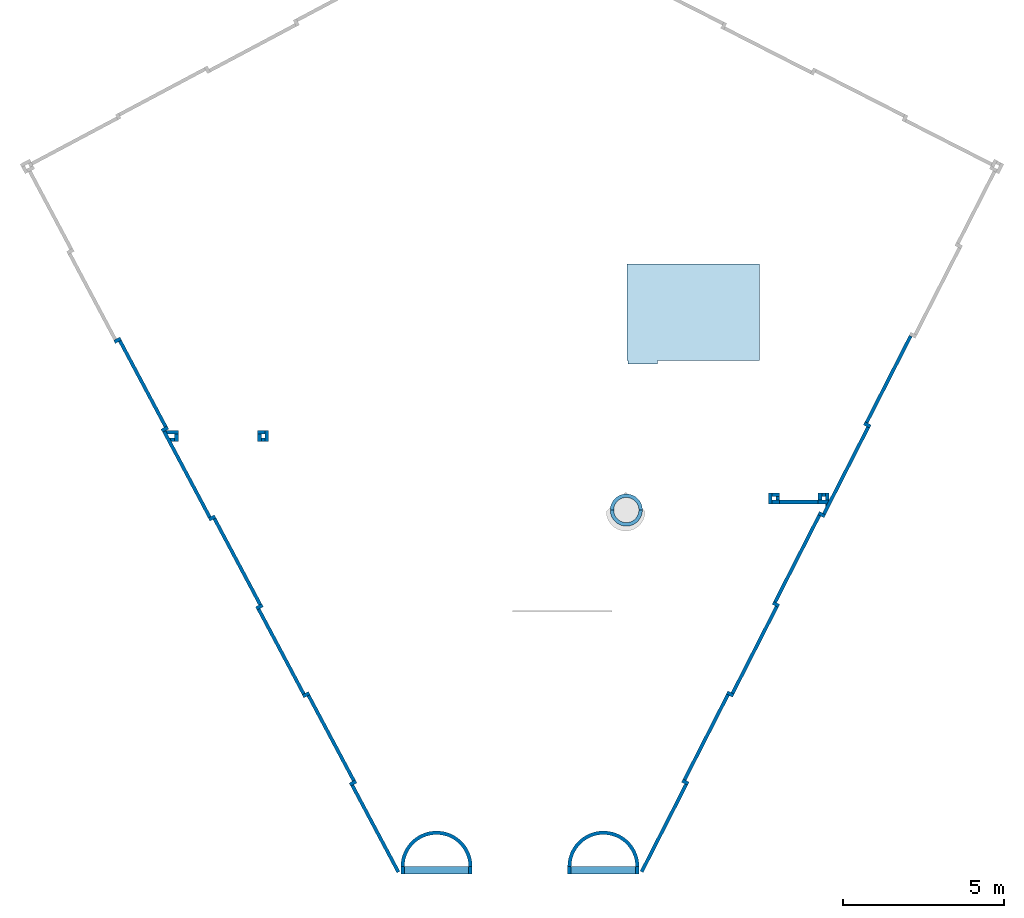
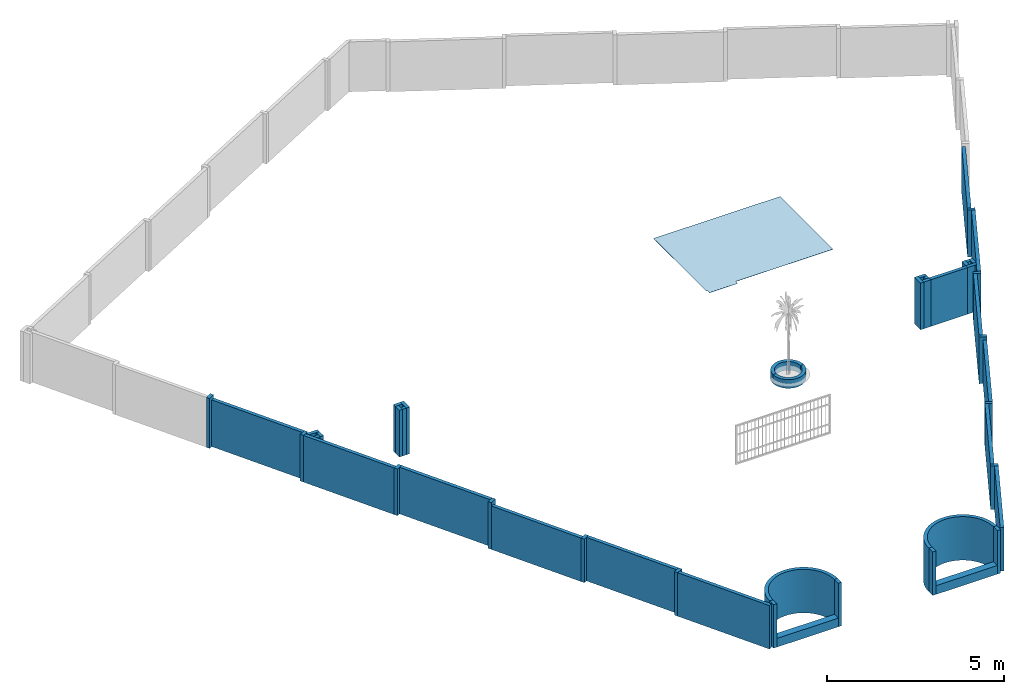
# One storey, part 1 of 4: 49 walls, 1 slab.
"""IFC2X3 building model written with IfcOpenShell, lengths in millimetres."""

import ifcopenshell
import ifcopenshell.guid

model = None  # the IFC model being written
_history = None  # IfcOwnerHistory: only IFC2X3 demands one
_inside = {}  # id of a spatial element -> (the spatial element, [elements in it])
_under = {}  # id of a project, library or spatial element -> (it, [spatial elements below it])
_declared = {}  # id of a project -> (the project, [libraries it declares])
_typed = {}  # id of a type object -> (the type object, [elements of that type])
_made_of = {}  # id of a material, layer set ... -> (it, [elements and type objects made of it])


def new_model(schema):
    """Start an empty IFC model of exactly this schema.

    Asked for "IFC4X3", IfcOpenShell would pick the latest addendum, in which some entities
    have other attributes; the version numbers below select the first issue.
    IFC2X3 requires an IfcOwnerHistory on every rooted entity: one is made here for all.
    """
    global model, _history
    if schema == "IFC4X3":
        model = ifcopenshell.file(schema_version=(4, 3, 0, 0))
    else:
        model = ifcopenshell.file(schema=schema)
    _inside.clear()
    _under.clear()
    _declared.clear()
    _typed.clear()
    _made_of.clear()
    _history = None
    if model.schema == "IFC2X3":
        org = make("IfcOrganization", Name="unknown")
        user = make(
            "IfcPersonAndOrganization",
            ThePerson=make("IfcPerson", FamilyName="unknown"),
            TheOrganization=org,
        )
        app = make(
            "IfcApplication",
            ApplicationDeveloper=org,
            Version="unknown",
            ApplicationFullName="unknown",
            ApplicationIdentifier="unknown",
        )
        _history = make(
            "IfcOwnerHistory",
            OwningUser=user,
            OwningApplication=app,
            ChangeAction="ADDED",
            CreationDate=0,
        )
    return model


def make(cls, **values):
    """One entity of the class cls with the attributes given. An attribute that is None is left unset."""
    return model.create_entity(
        cls, **{name: value for name, value in values.items() if value is not None}
    )


def entity(cls, *values):
    """Any entity or typed value of the class cls, its attributes in the order of the schema. None: left unset."""
    e = model.create_entity(cls)
    for i, value in enumerate(values):
        if value is not None:
            e[i] = value
    return e


def rooted(cls, **values):
    """An entity with a GlobalId (a new one), such as an element, a storey or a relation."""
    return make(cls, GlobalId=ifcopenshell.guid.new(), OwnerHistory=_history, **values)


def si_unit(unit_type, name, prefix=None):
    """IfcSIUnit, for example si_unit("LENGTHUNIT", "METRE", prefix="MILLI")."""
    return make("IfcSIUnit", UnitType=unit_type, Prefix=prefix, Name=name)


def converted_unit(unit_type, name, factor, base, dimensions=None, offset=None):
    """IfcConversionBasedUnit, such as the inch: factor (a typed value) times the base unit."""
    return make(
        "IfcConversionBasedUnit"
        if offset is None
        else "IfcConversionBasedUnitWithOffset",
        ConversionOffset=offset,
        Dimensions=None
        if dimensions is None
        else entity("IfcDimensionalExponents", *dimensions),
        UnitType=unit_type,
        Name=name,
        ConversionFactor=make(
            "IfcMeasureWithUnit", ValueComponent=factor, UnitComponent=base
        ),
    )


def derived_unit(unit_type, elements):
    """IfcDerivedUnit: a product of units, each with its exponent."""
    return make(
        "IfcDerivedUnit",
        Elements=[
            make("IfcDerivedUnitElement", Unit=unit, Exponent=power)
            for unit, power in elements
        ],
        UnitType=unit_type,
    )


def assignment(units):
    """IfcUnitAssignment: the units of a project."""
    return None if units is None else make("IfcUnitAssignment", Units=units)


def point(xyz):
    """IfcCartesianPoint."""
    return None if xyz is None else make("IfcCartesianPoint", Coordinates=xyz)


def direction(xyz):
    """IfcDirection."""
    return None if xyz is None else make("IfcDirection", DirectionRatios=xyz)


def frame(location, z_axis=None, x_axis=None):
    """IfcAxis2Placement3D, a coordinate frame: its origin and axes. An axis left out is left unset."""
    return make(
        "IfcAxis2Placement3D",
        Location=point(location),
        Axis=direction(z_axis),
        RefDirection=direction(x_axis),
    )


def frame_2d(location, x_axis=None):
    """IfcAxis2Placement2D, a coordinate frame in the plane: its origin and x axis."""
    return make(
        "IfcAxis2Placement2D", Location=point(location), RefDirection=direction(x_axis)
    )


def origin():
    """The frame at (0, 0, 0) with its axes left unset."""
    return frame((0.0, 0.0, 0.0))


def place(relative_to, where):
    """IfcLocalPlacement: puts the frame where relative to a parent placement (None: the world)."""
    return make(
        "IfcLocalPlacement", PlacementRelTo=relative_to, RelativePlacement=where
    )


def context(
    kind, dimensions, precision=None, world=None, true_north=None, identifier=None
):
    """IfcGeometricRepresentationContext, for example the 3D "Model" context."""
    return make(
        "IfcGeometricRepresentationContext",
        ContextIdentifier=identifier,
        ContextType=kind,
        CoordinateSpaceDimension=dimensions,
        Precision=precision,
        WorldCoordinateSystem=world,
        TrueNorth=true_north,
    )


def subcontext(parent, identifier, kind, view, scale=None):
    """IfcGeometricRepresentationSubContext, for example "Body" below "Model"."""
    return make(
        "IfcGeometricRepresentationSubContext",
        ContextIdentifier=identifier,
        ContextType=kind,
        ParentContext=parent,
        TargetScale=scale,
        TargetView=view,
    )


def project(units=None, contexts=None):
    """IfcProject with its units and contexts."""
    return rooted(
        "IfcProject",
        Name="project",
        RepresentationContexts=contexts,
        UnitsInContext=assignment(units),
    )


def spatial(cls, under=None, at=None, **own):
    """A site, building, storey or space (cls), placed at a placement, below another one or the project."""
    s = rooted(cls, ObjectPlacement=at, **own)
    if under is not None:
        _under.setdefault(under.id(), (under, []))[1].append(s)
    return s


def polyline(points):
    """IfcPolyline through the points."""
    return make("IfcPolyline", Points=[point(p) for p in points])


def circle_curve(where, radius):
    """IfcCircle in the frame where."""
    return make("IfcCircle", Position=where, Radius=radius)


def parameter(value):
    """IfcParameterValue: where a trimmed curve begins or ends, as a parameter of its basis curve."""
    return model.create_entity("IfcParameterValue", value)


def trimmed(basis, trim1, trim2, sense, master):
    """IfcTrimmedCurve: the piece of a basis curve between two trims."""
    return make(
        "IfcTrimmedCurve",
        BasisCurve=basis,
        Trim1=trim1,
        Trim2=trim2,
        SenseAgreement=sense,
        MasterRepresentation=master,
    )


def segment(curve, same_sense, transition):
    """IfcCompositeCurveSegment."""
    return make(
        "IfcCompositeCurveSegment",
        Transition=transition,
        SameSense=same_sense,
        ParentCurve=curve,
    )


def composite_curve(segments, self_intersect=None):
    """IfcCompositeCurve: segments joined end to end."""
    return make("IfcCompositeCurve", Segments=segments, SelfIntersect=self_intersect)


def profile(cls, at=None, kind="AREA", **sizes):
    """A parametric profile (cls). Its sizes go by their IFC names, for example OverallWidth=200.0."""
    return make(cls, ProfileType=kind, Position=at, **sizes)


def rectangle(**sizes):
    """IfcRectangleProfileDef."""
    return profile("IfcRectangleProfileDef", **sizes)


def outline(outer, holes=None, kind="AREA"):
    """IfcArbitraryClosedProfileDef: a profile drawn as a closed curve; with holes, ...WithVoids."""
    if holes is None:
        return make("IfcArbitraryClosedProfileDef", ProfileType=kind, OuterCurve=outer)
    return make(
        "IfcArbitraryProfileDefWithVoids",
        ProfileType=kind,
        OuterCurve=outer,
        InnerCurves=holes,
    )


def extrude(swept, where, along, depth):
    """IfcExtrudedAreaSolid: the profile swept, set in the frame where, extruded along a direction by depth."""
    return make(
        "IfcExtrudedAreaSolid",
        SweptArea=swept,
        Position=where,
        ExtrudedDirection=direction(along),
        Depth=depth,
    )


def shape(context_of_items, identifier, shape_type, items):
    """IfcShapeRepresentation: the items that make up one representation, for example the "Body"."""
    return make(
        "IfcShapeRepresentation",
        ContextOfItems=context_of_items,
        RepresentationIdentifier=identifier,
        RepresentationType=shape_type,
        Items=items,
    )


def material(Name=None, Category=None):
    """IfcMaterial."""
    return make("IfcMaterial", Name=Name, Category=Category)


def layer(
    of_material, thickness, ventilated=None, Name=None, Category=None, Priority=None
):
    """IfcMaterialLayer: one layer of a wall or slab, of a material (None: an air gap)."""
    return make(
        "IfcMaterialLayer",
        Material=of_material,
        LayerThickness=thickness,
        IsVentilated=ventilated,
        Name=Name,
        Category=Category,
        Priority=Priority,
    )


def layer_set(layers, Name=None):
    """IfcMaterialLayerSet."""
    return make("IfcMaterialLayerSet", MaterialLayers=layers, LayerSetName=Name)


def layer_usage(for_layer_set, set_direction, sense, offset, extent=None):
    """IfcMaterialLayerSetUsage: how a layer set lies in its element."""
    return make(
        "IfcMaterialLayerSetUsage",
        ForLayerSet=for_layer_set,
        LayerSetDirection=set_direction,
        DirectionSense=sense,
        OffsetFromReferenceLine=offset,
        ReferenceExtent=extent,
    )


def made_of(thing, what):
    """Note that an element or type object is made of a material, layer set ...; save() writes the relation."""
    if what is not None:
        _made_of.setdefault(what.id(), (what, []))[1].append(thing)
    return thing


def type_object(cls, material=None, **own):
    """A type object (cls), such as IfcWallType, which elements share."""
    return made_of(rooted(cls, **own), material)


def element(
    cls,
    number,
    at=None,
    inside=None,
    cuts=None,
    type_object=None,
    material=None,
    context=None,
    identifier="Body",
    shape_type=None,
    held_by="IfcProductDefinitionShape",
    body=None,
    shapes=None,
    **own,
):
    """One element of the class cls, such as IfcWall. Its Tag is "e" and its number.

    at: its placement. inside: the storey or other place that contains it. cuts: it is an
    opening in that element (IfcRelVoidsElement). A single representation is given by context,
    identifier, shape_type and body (its items); several are given by shapes. held_by: the class
    of the entity that holds the representations. save() writes the other relations.
    """
    e = rooted(cls, Tag="e%d" % number, ObjectPlacement=at, **own)
    if body is not None:
        shapes = [shape(context, identifier, shape_type, body)]
    if shapes is not None:
        e.Representation = make(held_by, Representations=shapes)
    if inside is not None:
        _inside.setdefault(inside.id(), (inside, []))[1].append(e)
    if cuts is not None:
        rooted(
            "IfcRelVoidsElement", RelatingBuildingElement=cuts, RelatedOpeningElement=e
        )
    if type_object is not None:
        _typed.setdefault(type_object.id(), (type_object, []))[1].append(e)
    return made_of(e, material)


def aggregate(whole, parts):
    """IfcRelAggregates: a whole, such as a stair, and the parts it consists of."""
    return rooted("IfcRelAggregates", RelatingObject=whole, RelatedObjects=parts)


def save(model, path):
    """Write the relations noted so far, then the file.

    IfcRelAggregates (storeys below a building ...), IfcRelContainedInSpatialStructure (elements
    in a storey), IfcRelDefinesByType, IfcRelAssociatesMaterial and IfcRelDeclares: one each for
    every whole, place, type object, material and project.
    """
    for whole, parts in _under.values():
        aggregate(whole, parts)
    for where, things in _inside.values():
        rooted(
            "IfcRelContainedInSpatialStructure",
            RelatedElements=things,
            RelatingStructure=where,
        )
    for kind, things in _typed.values():
        rooted("IfcRelDefinesByType", RelatedObjects=things, RelatingType=kind)
    for what, things in _made_of.values():
        rooted("IfcRelAssociatesMaterial", RelatedObjects=things, RelatingMaterial=what)
    for by, libraries in _declared.values():
        rooted("IfcRelDeclares", RelatingContext=by, RelatedDefinitions=libraries)
    model.write(path)


model = new_model("IFC2X3")

# Units and contexts
model_context = context("Model", 3, precision=0.01, world=origin(), true_north=direction((6.12303176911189e-17, 1.0)))
body_context = subcontext(model_context, "Body", "Model", "MODEL_VIEW")
ifc_project = project(units=[si_unit("LENGTHUNIT", "METRE", prefix="MILLI"), si_unit("AREAUNIT", "SQUARE_METRE"), si_unit("VOLUMEUNIT", "CUBIC_METRE"), converted_unit("PLANEANGLEUNIT", "DEGREE", entity("IfcRatioMeasure", 0.0174532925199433), si_unit("PLANEANGLEUNIT", "RADIAN"), dimensions=[0, 0, 0, 0, 0, 0, 0]), si_unit("MASSUNIT", "GRAM", prefix="KILO"), derived_unit("MASSDENSITYUNIT", [(si_unit("MASSUNIT", "GRAM", prefix="KILO"), 1), (si_unit("LENGTHUNIT", "METRE"), -3)]), si_unit("TIMEUNIT", "SECOND"), si_unit("FREQUENCYUNIT", "HERTZ"), si_unit("THERMODYNAMICTEMPERATUREUNIT", "DEGREE_CELSIUS"), derived_unit("THERMALTRANSMITTANCEUNIT", [(si_unit("MASSUNIT", "GRAM", prefix="KILO"), 1), (si_unit("THERMODYNAMICTEMPERATUREUNIT", "KELVIN"), -1), (si_unit("TIMEUNIT", "SECOND"), -3)]), derived_unit("VOLUMETRICFLOWRATEUNIT", [(si_unit("LENGTHUNIT", "METRE"), 3), (si_unit("TIMEUNIT", "SECOND"), -1)]), si_unit("ELECTRICCURRENTUNIT", "AMPERE"), si_unit("ELECTRICVOLTAGEUNIT", "VOLT"), si_unit("POWERUNIT", "WATT"), si_unit("FORCEUNIT", "NEWTON", prefix="KILO"), si_unit("ILLUMINANCEUNIT", "LUX"), si_unit("LUMINOUSFLUXUNIT", "LUMEN"), si_unit("LUMINOUSINTENSITYUNIT", "CANDELA"), derived_unit("USERDEFINED", [(si_unit("MASSUNIT", "GRAM", prefix="KILO"), -1), (si_unit("LENGTHUNIT", "METRE"), -2), (si_unit("TIMEUNIT", "SECOND"), 3), (si_unit("LUMINOUSFLUXUNIT", "LUMEN"), 1)]), derived_unit("LINEARVELOCITYUNIT", [(si_unit("LENGTHUNIT", "METRE"), 1), (si_unit("TIMEUNIT", "SECOND"), -1)]), si_unit("PRESSUREUNIT", "PASCAL"), derived_unit("USERDEFINED", [(si_unit("LENGTHUNIT", "METRE"), -2), (si_unit("MASSUNIT", "GRAM", prefix="KILO"), 1), (si_unit("TIMEUNIT", "SECOND"), -2)])], contexts=[model_context])

# Site, building, storey
site_placement = place(None, origin())
site = spatial("IfcSite", under=ifc_project, at=site_placement, Name="Surface", CompositionType="ELEMENT")
building_placement = place(site_placement, origin())
building = spatial("IfcBuilding", under=site, at=building_placement, CompositionType="ELEMENT")
storey_placement = place(building_placement, origin())
storey = spatial("IfcBuildingStorey", under=building, at=storey_placement, Name="N.G.L", CompositionType="ELEMENT", Elevation=0.0)

# Slab
ifc_material_1 = material(Name="Carpet")
ifc_layer_1 = layer(ifc_material_1, 4.0)
ifc_layer_set_1 = layer_set([ifc_layer_1], Name="Floor:Carpet")
ifc_layer_usage_1 = layer_usage(ifc_layer_set_1, "AXIS3", "POSITIVE", 0.0)
slab_placement = place(storey_placement, origin())
element("IfcSlab", 1, at=slab_placement, inside=storey, material=ifc_layer_usage_1, Name="Floor:Carpet", ObjectType="Floor:Carpet", PredefinedType="FLOOR", context=body_context, shape_type="SweptSolid", body=[
    extrude(outline(polyline([(-722.500000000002, -1280.0), (2277.5, -1280.0), (2277.5, 2850.0), (-722.500000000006, 2850.0), (-722.500000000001, -327.499999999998), (-832.500000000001, -327.499999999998), (-832.500000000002, -1242.5), (-722.500000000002, -1242.5), (-722.500000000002, -1280.0)])), frame((333.124829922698, 8268.34008915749, 3.0), z_axis=(0.0, 0.0, -1.0), x_axis=(0.0, 1.0, 0.0)), (0.0, 0.0, 1.0), 4.0),
])

# Walls
ifc_material_2 = material(Name="Brickwork - Facebrick (Plettenberg Autumn)")
ifc_layer_2 = layer(ifc_material_2, 110.0)
ifc_layer_set_2 = layer_set([ifc_layer_2], Name="Basic Wall:BrickWall - 110mm (Ext.F&Int.F)")
ifc_layer_usage_2 = layer_usage(ifc_layer_set_2, "AXIS2", "POSITIVE", -55.0)
wall_type_1 = type_object("IfcWallType", Name="Basic Wall:BrickWall - 110mm (Ext.F&Int.F)", PredefinedType="STANDARD", material=ifc_layer_set_2)
wall_1_placement = place(storey_placement, frame((-487.05235674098, -8356.39845620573, -170.0), z_axis=(0.0, 0.0, 1.0), x_axis=(0.453990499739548, 0.891006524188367, 0.0)))
element("IfcWallStandardCase", 2, at=wall_1_placement, inside=storey, type_object=wall_type_1, material=ifc_layer_usage_2, Name="Basic Wall:BrickWall - 110mm (Ext.F&Int.F)", ObjectType="Basic Wall:BrickWall - 110mm (Ext.F&Int.F)", context=body_context, shape_type="SweptSolid", body=[
    extrude(rectangle(XDim=3045.0, YDim=110.0, at=frame_2d((1522.5, 1.31450406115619e-13), x_axis=(-1.0, 0.0))), origin(), (0.0, 0.0, 1.0), 1500.0),
])
ifc_layer_usage_3 = layer_usage(ifc_layer_set_2, "AXIS2", "POSITIVE", -55.0)
wall_2_placement = place(storey_placement, frame((-7921.87517007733, -8419.15991084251, -170.0), z_axis=(0.0, 0.0, 1.0), x_axis=(0.0, 1.0, 0.0)))
element("IfcWallStandardCase", 3, at=wall_2_placement, inside=storey, type_object=wall_type_1, material=ifc_layer_usage_3, Name="Basic Wall:BrickWall - 110mm (Ext.F&Int.F)", ObjectType="Basic Wall:BrickWall - 110mm (Ext.F&Int.F)", context=body_context, shape_type="SweptSolid", body=[
    extrude(rectangle(XDim=220.000000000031, YDim=110.000000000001, at=frame_2d((110.000000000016, 0.0), x_axis=(-1.0, 0.0))), origin(), (0.0, 0.0, 1.0), 1500.0),
])
ifc_layer_usage_4 = layer_usage(ifc_layer_set_2, "AXIS2", "NEGATIVE", 55.0)
wall_3_placement = place(storey_placement, frame((-7921.87517007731, -8199.15991084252, -170.0)))
element("IfcWallStandardCase", 4, at=wall_3_placement, inside=storey, type_object=wall_type_1, material=ifc_layer_usage_4, Name="Basic Wall:BrickWall - 110mm (Ext.F&Int.F)", ObjectType="Basic Wall:BrickWall - 110mm (Ext.F&Int.F)", context=body_context, shape_type="SweptSolid", body=[
    extrude(outline(composite_curve([segment(trimmed(circle_curve(frame_2d((1055.0, 0.0), x_axis=(1.0, 0.0)), 1110.00000000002), [parameter(359.999999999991)], [parameter(179.999999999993)], True, "PARAMETER"), True, "CONTINUOUS"), segment(polyline([(-55.0, 0.0), (55.0, 0.0)]), True, "CONTINUOUS"), segment(trimmed(circle_curve(frame_2d((1055.0, 0.0), x_axis=(1.0, 0.0)), 1000.00000000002), [parameter(359.999999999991)], [parameter(179.999999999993)], True, "PARAMETER"), False, "CONTINUOUS"), segment(polyline([(2055.0, 0.0), (2165.0, 0.0)]), True, "CONTINUOUS")], self_intersect=False)), origin(), (0.0, 0.0, 1.0), 1500.0),
])
ifc_layer_usage_5 = layer_usage(ifc_layer_set_2, "AXIS2", "POSITIVE", -55.0)
wall_4_placement = place(storey_placement, frame((-5811.87517007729, -8199.15991084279, -170.0), z_axis=(0.0, 0.0, 1.0), x_axis=(0.0, -1.0, 0.0)))
element("IfcWallStandardCase", 5, at=wall_4_placement, inside=storey, type_object=wall_type_1, material=ifc_layer_usage_5, Name="Basic Wall:BrickWall - 110mm (Ext.F&Int.F)", ObjectType="Basic Wall:BrickWall - 110mm (Ext.F&Int.F)", context=body_context, shape_type="SweptSolid", body=[
    extrude(rectangle(XDim=219.999999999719, YDim=110.000000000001, at=frame_2d((109.99999999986, 0.0), x_axis=(-1.0, 0.0))), origin(), (0.0, 0.0, 1.0), 1500.0),
])
ifc_layer_usage_6 = layer_usage(ifc_layer_set_2, "AXIS2", "POSITIVE", -55.0)
wall_5_placement = place(storey_placement, frame((-2732.30297205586, -8419.15991084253, -170.0), z_axis=(0.0, 0.0, 1.0), x_axis=(0.0, 1.0, 0.0)))
element("IfcWallStandardCase", 6, at=wall_5_placement, inside=storey, type_object=wall_type_1, material=ifc_layer_usage_6, Name="Basic Wall:BrickWall - 110mm (Ext.F&Int.F)", ObjectType="Basic Wall:BrickWall - 110mm (Ext.F&Int.F)", context=body_context, shape_type="SweptSolid", body=[
    extrude(rectangle(XDim=220.000000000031, YDim=110.0, at=frame_2d((110.000000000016, 0.0), x_axis=(-1.0, 0.0))), origin(), (0.0, 0.0, 1.0), 1500.0),
])
ifc_layer_usage_7 = layer_usage(ifc_layer_set_2, "AXIS2", "NEGATIVE", 55.0)
wall_6_placement = place(storey_placement, frame((-2732.30297205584, -8199.15991084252, -170.0)))
element("IfcWallStandardCase", 7, at=wall_6_placement, inside=storey, type_object=wall_type_1, material=ifc_layer_usage_7, Name="Basic Wall:BrickWall - 110mm (Ext.F&Int.F)", ObjectType="Basic Wall:BrickWall - 110mm (Ext.F&Int.F)", context=body_context, shape_type="SweptSolid", body=[
    extrude(outline(composite_curve([segment(trimmed(circle_curve(frame_2d((1055.0, 0.0), x_axis=(1.0, 0.0)), 1110.00000000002), [parameter(359.999999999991)], [parameter(179.999999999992)], True, "PARAMETER"), True, "CONTINUOUS"), segment(polyline([(-55.0, 0.0), (55.0, 0.0)]), True, "CONTINUOUS"), segment(trimmed(circle_curve(frame_2d((1055.0, 0.0), x_axis=(1.0, 0.0)), 1000.00000000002), [parameter(359.999999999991)], [parameter(179.999999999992)], True, "PARAMETER"), False, "CONTINUOUS"), segment(polyline([(2055.0, 0.0), (2165.0, 0.0)]), True, "CONTINUOUS")], self_intersect=False)), origin(), (0.0, 0.0, 1.0), 1500.0),
])
ifc_layer_usage_8 = layer_usage(ifc_layer_set_2, "AXIS2", "POSITIVE", -55.0)
wall_7_placement = place(storey_placement, frame((-622.302972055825, -8199.1599108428, -170.0), z_axis=(0.0, 0.0, 1.0), x_axis=(0.0, -1.0, 0.0)))
element("IfcWallStandardCase", 8, at=wall_7_placement, inside=storey, type_object=wall_type_1, material=ifc_layer_usage_8, Name="Basic Wall:BrickWall - 110mm (Ext.F&Int.F)", ObjectType="Basic Wall:BrickWall - 110mm (Ext.F&Int.F)", context=body_context, shape_type="SweptSolid", body=[
    extrude(rectangle(XDim=219.999999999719, YDim=110.0, at=frame_2d((109.99999999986, 3.19744231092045e-14), x_axis=(-1.0, 0.0))), origin(), (0.0, 0.0, 1.0), 1500.0),
])
ifc_layer_usage_9 = layer_usage(ifc_layer_set_2, "AXIS2", "NEGATIVE", 55.0)
wall_8_placement = place(storey_placement, frame((-8051.22352044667, -8369.05791608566, -170.0), z_axis=(0.0, 0.0, 1.0), x_axis=(-0.469471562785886, 0.88294759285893, 0.0)))
element("IfcWallStandardCase", 9, at=wall_8_placement, inside=storey, type_object=wall_type_1, material=ifc_layer_usage_9, Name="Basic Wall:BrickWall - 110mm (Ext.F&Int.F)", ObjectType="Basic Wall:BrickWall - 110mm (Ext.F&Int.F)", context=body_context, shape_type="SweptSolid", body=[
    extrude(rectangle(XDim=3055.0, YDim=109.999999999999, at=frame_2d((1527.5, 4.2277292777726e-13), x_axis=(-1.0, 0.0))), origin(), (0.0, 0.0, 1.0), 1500.0),
])
ifc_layer_usage_10 = layer_usage(ifc_layer_set_2, "AXIS2", "POSITIVE", -55.0)
wall_9_placement = place(storey_placement, frame((-12472.9132454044, -170.22202455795, -170.0), z_axis=(0.0, 0.0, 1.0), x_axis=(0.882947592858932, 0.469471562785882, 0.0)))
element("IfcWallStandardCase", 10, at=wall_9_placement, inside=storey, type_object=wall_type_1, material=ifc_layer_usage_10, Name="Basic Wall:BrickWall - 110mm (Ext.F&Int.F)", ObjectType="Basic Wall:BrickWall - 110mm (Ext.F&Int.F)", context=body_context, shape_type="SweptSolid", body=[
    extrude(rectangle(XDim=219.999999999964, YDim=110.000000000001, at=frame_2d((109.999999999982, -4.61852778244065e-14), x_axis=(-1.0, 0.0))), origin(), (0.0, 0.0, 1.0), 1610.0),
])
ifc_layer_usage_11 = layer_usage(ifc_layer_set_2, "AXIS2", "POSITIVE", -55.0)
wall_10_placement = place(storey_placement, frame((-12353.047828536, -44.1970990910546, -170.0), z_axis=(0.0, 0.0, 1.0), x_axis=(-0.469471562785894, 0.882947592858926, 0.0)))
element("IfcWallStandardCase", 11, at=wall_10_placement, inside=storey, type_object=wall_type_1, material=ifc_layer_usage_11, Name="Basic Wall:BrickWall - 110mm (Ext.F&Int.F)", ObjectType="Basic Wall:BrickWall - 110mm (Ext.F&Int.F)", context=body_context, shape_type="SweptSolid", body=[
    extrude(rectangle(XDim=3020.0, YDim=110.000000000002, at=frame_2d((1510.0, -6.25277607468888e-13), x_axis=(-1.0, 0.0))), origin(), (0.0, 0.0, 1.0), 1610.0),
])
ifc_layer_usage_12 = layer_usage(ifc_layer_set_2, "AXIS2", "NEGATIVE", 55.0)
wall_11_placement = place(storey_placement, frame((-13748.1107664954, 2696.68768490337, -170.0), z_axis=(0.0, 0.0, 1.0), x_axis=(-0.882947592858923, -0.469471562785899, 0.0)))
element("IfcWallStandardCase", 12, at=wall_11_placement, inside=storey, type_object=wall_type_1, material=ifc_layer_usage_12, Name="Basic Wall:BrickWall - 110mm (Ext.F&Int.F)", ObjectType="Basic Wall:BrickWall - 110mm (Ext.F&Int.F)", context=body_context, shape_type="SweptSolid", body=[
    extrude(rectangle(XDim=219.999999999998, YDim=110.0, at=frame_2d((109.999999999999, 2.8421709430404e-14), x_axis=(-1.0, 0.0))), origin(), (0.0, 0.0, 1.0), 1610.0),
])
ifc_layer_usage_13 = layer_usage(ifc_layer_set_2, "AXIS2", "NEGATIVE", 55.0)
wall_12_placement = place(storey_placement, frame((-13919.6180552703, 2667.78699465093, -170.0), z_axis=(0.0, 0.0, 1.0), x_axis=(-0.469471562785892, 0.882947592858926, 0.0)))
element("IfcWallStandardCase", 13, at=wall_12_placement, inside=storey, type_object=wall_type_1, material=ifc_layer_usage_13, Name="Basic Wall:BrickWall - 110mm (Ext.F&Int.F)", ObjectType="Basic Wall:BrickWall - 110mm (Ext.F&Int.F)", context=body_context, shape_type="SweptSolid", body=[
    extrude(rectangle(XDim=3020.0, YDim=110.000000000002, at=frame_2d((1510.0, 2.23820961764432e-13), x_axis=(-1.0, 0.0))), origin(), (0.0, 0.0, 1.0), 1610.0),
])
ifc_layer_usage_14 = layer_usage(ifc_layer_set_2, "AXIS2", "POSITIVE", -55.0)
wall_13_placement = place(storey_placement, frame((-15411.8052284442, 5357.02990673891, -170.0), z_axis=(0.0, 0.0, 1.0), x_axis=(0.882947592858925, 0.469471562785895, 0.0)))
element("IfcWallStandardCase", 14, at=wall_13_placement, inside=storey, type_object=wall_type_1, material=ifc_layer_usage_14, Name="Basic Wall:BrickWall - 110mm (Ext.F&Int.F)", ObjectType="Basic Wall:BrickWall - 110mm (Ext.F&Int.F)", context=body_context, shape_type="SweptSolid", body=[
    extrude(rectangle(XDim=220.000000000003, YDim=110.0, at=frame_2d((110.000000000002, 4.44089209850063e-13), x_axis=(-1.0, 0.0))), origin(), (0.0, 0.0, 1.0), 1610.0),
])
ifc_layer_usage_15 = layer_usage(ifc_layer_set_2, "AXIS2", "POSITIVE", -55.0)
wall_14_placement = place(storey_placement, frame((-15291.9398115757, 5483.05483220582, -170.0), z_axis=(0.0, 0.0, 1.0), x_axis=(-0.469471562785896, 0.882947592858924, 0.0)))
element("IfcWallStandardCase", 15, at=wall_14_placement, inside=storey, type_object=wall_type_1, material=ifc_layer_usage_15, Name="Basic Wall:BrickWall - 110mm (Ext.F&Int.F)", ObjectType="Basic Wall:BrickWall - 110mm (Ext.F&Int.F)", context=body_context, shape_type="SweptSolid", body=[
    extrude(rectangle(XDim=3020.0, YDim=109.999999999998, at=frame_2d((1510.0, 5.11590769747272e-13), x_axis=(-1.0, 0.0))), origin(), (0.0, 0.0, 1.0), 1610.0),
])
ifc_layer_usage_16 = layer_usage(ifc_layer_set_2, "AXIS2", "NEGATIVE", 55.0)
wall_15_placement = place(storey_placement, frame((-16687.002749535, 8223.93961620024, -170.0), z_axis=(0.0, 0.0, 1.0), x_axis=(-0.882947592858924, -0.469471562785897, 0.0)))
element("IfcWallStandardCase", 16, at=wall_15_placement, inside=storey, type_object=wall_type_1, material=ifc_layer_usage_16, Name="Basic Wall:BrickWall - 110mm (Ext.F&Int.F)", ObjectType="Basic Wall:BrickWall - 110mm (Ext.F&Int.F)", context=body_context, shape_type="SweptSolid", body=[
    extrude(rectangle(XDim=220.000000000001, YDim=110.0, at=frame_2d((110.0, 2.30926389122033e-13), x_axis=(-1.0, 0.0))), origin(), (0.0, 0.0, 1.0), 1720.0),
])
ifc_layer_usage_17 = layer_usage(ifc_layer_set_2, "AXIS2", "POSITIVE", -55.0)
wall_16_placement = place(storey_placement, frame((2341.30845663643, -2805.42781051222, -170.0), z_axis=(0.0, 0.0, 1.0), x_axis=(0.453990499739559, 0.891006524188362, 0.0)))
element("IfcWallStandardCase", 17, at=wall_16_placement, inside=storey, type_object=wall_type_1, material=ifc_layer_usage_17, Name="Basic Wall:BrickWall - 110mm (Ext.F&Int.F)", ObjectType="Basic Wall:BrickWall - 110mm (Ext.F&Int.F)", context=body_context, shape_type="SweptSolid", body=[
    extrude(rectangle(XDim=3020.0, YDim=110.0, at=frame_2d((1510.0, 3.5527136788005e-14), x_axis=(-1.0, 0.0))), origin(), (0.0, 0.0, 1.0), 1500.0),
])
ifc_layer_usage_18 = layer_usage(ifc_layer_set_2, "AXIS2", "NEGATIVE", 55.0)
wall_17_placement = place(storey_placement, frame((3786.33460216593, -90.55222611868, -170.0), z_axis=(0.0, 0.0, 1.0), x_axis=(-0.891006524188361, 0.453990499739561, 0.0)))
element("IfcWallStandardCase", 18, at=wall_17_placement, inside=storey, type_object=wall_type_1, material=ifc_layer_usage_18, Name="Basic Wall:BrickWall - 110mm (Ext.F&Int.F)", ObjectType="Basic Wall:BrickWall - 110mm (Ext.F&Int.F)", context=body_context, shape_type="SweptSolid", body=[
    extrude(rectangle(XDim=220.0, YDim=110.0, at=frame_2d((110.0, -2.1316282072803e-14), x_axis=(-1.0, 0.0))), origin(), (0.0, 0.0, 1.0), 1610.0),
])
ifc_layer_usage_19 = layer_usage(ifc_layer_set_2, "AXIS2", "NEGATIVE", 55.0)
wall_18_placement = place(storey_placement, frame((3664.28800316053, 33.3615651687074, -170.0), z_axis=(0.0, 0.0, 1.0), x_axis=(0.453990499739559, 0.891006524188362, 0.0)))
element("IfcWallStandardCase", 19, at=wall_18_placement, inside=storey, type_object=wall_type_1, material=ifc_layer_usage_19, Name="Basic Wall:BrickWall - 110mm (Ext.F&Int.F)", ObjectType="Basic Wall:BrickWall - 110mm (Ext.F&Int.F)", context=body_context, shape_type="SweptSolid", body=[
    extrude(rectangle(XDim=3020.0, YDim=110.000000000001, at=frame_2d((1510.0, 1.98951966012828e-13), x_axis=(-1.0, 0.0))), origin(), (0.0, 0.0, 1.0), 1610.0),
])
ifc_layer_usage_20 = layer_usage(ifc_layer_set_2, "AXIS2", "POSITIVE", -55.0)
wall_19_placement = place(storey_placement, frame((5011.30343102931, 2798.17610453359, -170.0), z_axis=(0.0, 0.0, 1.0), x_axis=(0.891006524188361, -0.45399049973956, 0.0)))
element("IfcWallStandardCase", 20, at=wall_19_placement, inside=storey, type_object=wall_type_1, material=ifc_layer_usage_20, Name="Basic Wall:BrickWall - 110mm (Ext.F&Int.F)", ObjectType="Basic Wall:BrickWall - 110mm (Ext.F&Int.F)", context=body_context, shape_type="SweptSolid", body=[
    extrude(rectangle(XDim=220.0, YDim=110.0, at=frame_2d((110.0, 3.5527136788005e-15), x_axis=(-1.0, 0.0))), origin(), (0.0, 0.0, 1.0), 1610.0),
])
ifc_layer_usage_21 = layer_usage(ifc_layer_set_2, "AXIS2", "POSITIVE", -55.0)
wall_20_placement = place(storey_placement, frame((5183.28898500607, 2772.27303090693, -170.0), z_axis=(0.0, 0.0, 1.0), x_axis=(0.453990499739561, 0.89100652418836, 0.0)))
element("IfcWallStandardCase", 21, at=wall_20_placement, inside=storey, type_object=wall_type_1, material=ifc_layer_usage_21, Name="Basic Wall:BrickWall - 110mm (Ext.F&Int.F)", ObjectType="Basic Wall:BrickWall - 110mm (Ext.F&Int.F)", context=body_context, shape_type="SweptSolid", body=[
    extrude(rectangle(XDim=3020.0, YDim=110.0, at=frame_2d((1510.0, -1.52766688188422e-13), x_axis=(-1.0, 0.0))), origin(), (0.0, 0.0, 1.0), 1610.0),
])
ifc_layer_usage_22 = layer_usage(ifc_layer_set_2, "AXIS2", "NEGATIVE", 55.0)
wall_21_placement = place(storey_placement, frame((6628.31513053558, 5487.14861530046, -170.0), z_axis=(0.0, 0.0, 1.0), x_axis=(-0.891006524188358, 0.453990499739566, 0.0)))
element("IfcWallStandardCase", 22, at=wall_21_placement, inside=storey, type_object=wall_type_1, material=ifc_layer_usage_22, Name="Basic Wall:BrickWall - 110mm (Ext.F&Int.F)", ObjectType="Basic Wall:BrickWall - 110mm (Ext.F&Int.F)", context=body_context, shape_type="SweptSolid", body=[
    extrude(rectangle(XDim=220.0, YDim=110.000000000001, at=frame_2d((110.0, 0.0), x_axis=(-1.0, 0.0))), origin(), (0.0, 0.0, 1.0), 1610.0),
])
ifc_layer_usage_23 = layer_usage(ifc_layer_set_2, "AXIS2", "NEGATIVE", 55.0)
wall_22_placement = place(storey_placement, frame((6506.26853153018, 5611.06240658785, -170.0), z_axis=(0.0, 0.0, 1.0), x_axis=(0.453990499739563, 0.89100652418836, 0.0)))
element("IfcWallStandardCase", 23, at=wall_22_placement, inside=storey, type_object=wall_type_1, material=ifc_layer_usage_23, Name="Basic Wall:BrickWall - 110mm (Ext.F&Int.F)", ObjectType="Basic Wall:BrickWall - 110mm (Ext.F&Int.F)", context=body_context, shape_type="SweptSolid", body=[
    extrude(rectangle(XDim=3020.0, YDim=110.0, at=frame_2d((1510.0, -1.77635683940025e-14), x_axis=(-1.0, 0.0))), origin(), (0.0, 0.0, 1.0), 1610.0),
])
ifc_layer_usage_24 = layer_usage(ifc_layer_set_2, "AXIS2", "NEGATIVE", 55.0)
wall_23_placement = place(storey_placement, frame((969.323551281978, -5619.24770870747, -170.0), z_axis=(0.0, 0.0, 1.0), x_axis=(-0.891006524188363, 0.453990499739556, 0.0)))
element("IfcWallStandardCase", 24, at=wall_23_placement, inside=storey, type_object=wall_type_1, material=ifc_layer_usage_24, Name="Basic Wall:BrickWall - 110mm (Ext.F&Int.F)", ObjectType="Basic Wall:BrickWall - 110mm (Ext.F&Int.F)", context=body_context, shape_type="SweptSolid", body=[
    extrude(rectangle(XDim=220.0, YDim=110.0, at=frame_2d((110.0, 3.5527136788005e-14), x_axis=(-1.0, 0.0))), origin(), (0.0, 0.0, 1.0), 1500.0),
])
ifc_layer_usage_25 = layer_usage(ifc_layer_set_2, "AXIS2", "NEGATIVE", 55.0)
wall_24_placement = place(storey_placement, frame((847.276952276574, -5495.33391742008, -170.0), z_axis=(0.0, 0.0, 1.0), x_axis=(0.453990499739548, 0.891006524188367, 0.0)))
element("IfcWallStandardCase", 25, at=wall_24_placement, inside=storey, type_object=wall_type_1, material=ifc_layer_usage_25, Name="Basic Wall:BrickWall - 110mm (Ext.F&Int.F)", ObjectType="Basic Wall:BrickWall - 110mm (Ext.F&Int.F)", context=body_context, shape_type="SweptSolid", body=[
    extrude(rectangle(XDim=2965.0, YDim=109.999999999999, at=frame_2d((1482.5, -1.13686837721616e-13), x_axis=(-1.0, 0.0))), origin(), (0.0, 0.0, 1.0), 1500.0),
])
ifc_layer_usage_26 = layer_usage(ifc_layer_set_2, "AXIS2", "POSITIVE", -55.0)
wall_25_placement = place(storey_placement, frame((2365.34433798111, -2879.40264682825, -170.0), z_axis=(0.0, 0.0, 1.0), x_axis=(-0.891006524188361, 0.453990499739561, 0.0)))
element("IfcWallStandardCase", 26, at=wall_25_placement, inside=storey, type_object=wall_type_1, material=ifc_layer_usage_26, Name="Basic Wall:BrickWall - 110mm (Ext.F&Int.F)", ObjectType="Basic Wall:BrickWall - 110mm (Ext.F&Int.F)", context=body_context, shape_type="SweptSolid", body=[
    extrude(rectangle(XDim=220.000000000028, YDim=110.0, at=frame_2d((110.000000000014, -7.105427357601e-14), x_axis=(-1.0, 0.0))), origin(), (0.0, 0.0, 1.0), 1500.0),
])
ifc_layer_usage_27 = layer_usage(ifc_layer_set_2, "AXIS2", "POSITIVE", -55.0)
wall_26_placement = place(storey_placement, frame((-9559.84219831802, -5648.91183824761, -170.0), z_axis=(0.0, 0.0, 1.0), x_axis=(0.88294759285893, 0.469471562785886, 0.0)))
element("IfcWallStandardCase", 27, at=wall_26_placement, inside=storey, type_object=wall_type_1, material=ifc_layer_usage_27, Name="Basic Wall:BrickWall - 110mm (Ext.F&Int.F)", ObjectType="Basic Wall:BrickWall - 110mm (Ext.F&Int.F)", context=body_context, shape_type="SweptSolid", body=[
    extrude(rectangle(XDim=220.000000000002, YDim=109.999999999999, at=frame_2d((110.000000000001, 2.16715534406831e-13), x_axis=(-1.0, 0.0))), origin(), (0.0, 0.0, 1.0), 1500.0),
])
ifc_layer_usage_28 = layer_usage(ifc_layer_set_2, "AXIS2", "POSITIVE", -55.0)
wall_27_placement = place(storey_placement, frame((-9439.97678144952, -5522.8869127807, -170.0), z_axis=(0.0, 0.0, 1.0), x_axis=(-0.46947156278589, 0.882947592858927, 0.0)))
element("IfcWallStandardCase", 28, at=wall_27_placement, inside=storey, type_object=wall_type_1, material=ifc_layer_usage_28, Name="Basic Wall:BrickWall - 110mm (Ext.F&Int.F)", ObjectType="Basic Wall:BrickWall - 110mm (Ext.F&Int.F)", context=body_context, shape_type="SweptSolid", body=[
    extrude(rectangle(XDim=3000.0, YDim=109.999999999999, at=frame_2d((1500.0, -5.25801624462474e-13), x_axis=(-1.0, 0.0))), origin(), (0.0, 0.0, 1.0), 1500.0),
])
ifc_layer_usage_29 = layer_usage(ifc_layer_set_2, "AXIS2", "NEGATIVE", 55.0)
wall_28_placement = place(storey_placement, frame((-10825.6502881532, -2799.66108064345, -170.0), z_axis=(0.0, 0.0, 1.0), x_axis=(-0.88294759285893, -0.469471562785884, 0.0)))
element("IfcWallStandardCase", 29, at=wall_28_placement, inside=storey, type_object=wall_type_1, material=ifc_layer_usage_29, Name="Basic Wall:BrickWall - 110mm (Ext.F&Int.F)", ObjectType="Basic Wall:BrickWall - 110mm (Ext.F&Int.F)", context=body_context, shape_type="SweptSolid", body=[
    extrude(rectangle(XDim=219.999999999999, YDim=110.000000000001, at=frame_2d((109.999999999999, 1.66977542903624e-13), x_axis=(-1.0, 0.0))), origin(), (0.0, 0.0, 1.0), 1500.0),
])
ifc_layer_usage_30 = layer_usage(ifc_layer_set_2, "AXIS2", "NEGATIVE", 55.0)
wall_29_placement = place(storey_placement, frame((-10997.1575769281, -2828.56177089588, -170.0), z_axis=(0.0, 0.0, 1.0), x_axis=(-0.469471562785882, 0.882947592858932, 0.0)))
element("IfcWallStandardCase", 30, at=wall_29_placement, inside=storey, type_object=wall_type_1, material=ifc_layer_usage_30, Name="Basic Wall:BrickWall - 110mm (Ext.F&Int.F)", ObjectType="Basic Wall:BrickWall - 110mm (Ext.F&Int.F)", context=body_context, shape_type="SweptSolid", body=[
    extrude(rectangle(XDim=2985.0, YDim=110.000000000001, at=frame_2d((1492.5, 4.83169060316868e-13), x_axis=(-1.0, 0.0))), origin(), (0.0, 0.0, 1.0), 1500.0),
])
ifc_layer_usage_31 = layer_usage(ifc_layer_set_2, "AXIS2", "NEGATIVE", 55.0)
wall_30_placement = place(storey_placement, frame((-15288.8600572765, 5305.10966103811, -170.0)))
element("IfcWallStandardCase", 31, at=wall_30_placement, inside=storey, type_object=wall_type_1, material=ifc_layer_usage_31, Name="Basic Wall:BrickWall - 110mm (Ext.F&Int.F)", ObjectType="Basic Wall:BrickWall - 110mm (Ext.F&Int.F)", context=body_context, shape_type="SweptSolid", body=[
    extrude(outline(polyline([(390.631101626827, -55.0), (390.631101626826, 55.0), (0.0, 55.0), (58.4880374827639, -55.0), (280.631101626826, -55.0), (390.631101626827, -55.0)])), origin(), (0.0, 0.0, 1.0), 1610.0),
])
ifc_layer_usage_32 = layer_usage(ifc_layer_set_2, "AXIS2", "NEGATIVE", 55.0)
wall_31_placement = place(storey_placement, frame((-14953.2289556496, 5250.10966103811, -170.0), z_axis=(0.0, 0.0, 1.0), x_axis=(0.0, -1.0, 0.0)))
element("IfcWallStandardCase", 32, at=wall_31_placement, inside=storey, type_object=wall_type_1, material=ifc_layer_usage_32, Name="Basic Wall:BrickWall - 110mm (Ext.F&Int.F)", ObjectType="Basic Wall:BrickWall - 110mm (Ext.F&Int.F)", context=body_context, shape_type="SweptSolid", body=[
    extrude(rectangle(XDim=230.0, YDim=110.000000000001, at=frame_2d((115.0, 0.0), x_axis=(-1.0, 0.0))), origin(), (0.0, 0.0, 1.0), 1610.0),
])
ifc_layer_usage_33 = layer_usage(ifc_layer_set_2, "AXIS2", "NEGATIVE", 55.0)
wall_32_placement = place(storey_placement, frame((-15008.2289556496, 5075.10966103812, -170.0), z_axis=(0.0, 0.0, 1.0), x_axis=(-1.0, 0.0, 0.0)))
element("IfcWallStandardCase", 33, at=wall_32_placement, inside=storey, type_object=wall_type_1, material=ifc_layer_usage_33, Name="Basic Wall:BrickWall - 110mm (Ext.F&Int.F)", ObjectType="Basic Wall:BrickWall - 110mm (Ext.F&Int.F)", context=body_context, shape_type="SweptSolid", body=[
    extrude(outline(polyline([(158.337932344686, -55.0), (99.8498948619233, 55.0), (0.0, 55.0), (0.0, -55.0), (158.337932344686, -55.0)])), origin(), (0.0, 0.0, 1.0), 1610.0),
])
ifc_layer_usage_34 = layer_usage(ifc_layer_set_2, "AXIS2", "POSITIVE", -55.0)
wall_33_placement = place(storey_placement, frame((-12141.8751700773, 5020.10966103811, -170.0), z_axis=(0.0, 0.0, 1.0), x_axis=(0.0, 1.0, 0.0)))
element("IfcWallStandardCase", 34, at=wall_33_placement, inside=storey, type_object=wall_type_1, material=ifc_layer_usage_34, Name="Basic Wall:BrickWall - 110mm (Ext.F&Int.F)", ObjectType="Basic Wall:BrickWall - 110mm (Ext.F&Int.F)", context=body_context, shape_type="SweptSolid", body=[
    extrude(rectangle(XDim=339.999999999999, YDim=110.000000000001, at=frame_2d((169.999999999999, 0.0), x_axis=(-1.0, 0.0))), origin(), (0.0, 0.0, 1.0), 1610.0),
])
ifc_layer_usage_35 = layer_usage(ifc_layer_set_2, "AXIS2", "POSITIVE", -55.0)
wall_34_placement = place(storey_placement, frame((-12196.8751700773, 5305.10966103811, -170.0), z_axis=(0.0, 0.0, 1.0), x_axis=(-1.0, 0.0, 0.0)))
element("IfcWallStandardCase", 35, at=wall_34_placement, inside=storey, type_object=wall_type_1, material=ifc_layer_usage_35, Name="Basic Wall:BrickWall - 110mm (Ext.F&Int.F)", ObjectType="Basic Wall:BrickWall - 110mm (Ext.F&Int.F)", context=body_context, shape_type="SweptSolid", body=[
    extrude(rectangle(XDim=230.0, YDim=110.000000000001, at=frame_2d((115.0, -1.74082970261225e-13), x_axis=(-1.0, 0.0))), origin(), (0.0, 0.0, 1.0), 1610.0),
])
ifc_layer_usage_36 = layer_usage(ifc_layer_set_2, "AXIS2", "POSITIVE", -55.0)
wall_35_placement = place(storey_placement, frame((-12371.8751700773, 5250.10966103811, -170.0), z_axis=(0.0, 0.0, 1.0), x_axis=(0.0, -1.0, 0.0)))
element("IfcWallStandardCase", 36, at=wall_35_placement, inside=storey, type_object=wall_type_1, material=ifc_layer_usage_36, Name="Basic Wall:BrickWall - 110mm (Ext.F&Int.F)", ObjectType="Basic Wall:BrickWall - 110mm (Ext.F&Int.F)", context=body_context, shape_type="SweptSolid", body=[
    extrude(rectangle(XDim=229.999999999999, YDim=110.000000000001, at=frame_2d((114.999999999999, 0.0), x_axis=(-1.0, 0.0))), origin(), (0.0, 0.0, 1.0), 1610.0),
])
ifc_layer_usage_37 = layer_usage(ifc_layer_set_2, "AXIS2", "POSITIVE", -55.0)
wall_36_placement = place(storey_placement, frame((-12316.8751700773, 5075.10966103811, -170.0)))
element("IfcWallStandardCase", 37, at=wall_36_placement, inside=storey, type_object=wall_type_1, material=ifc_layer_usage_37, Name="Basic Wall:BrickWall - 110mm (Ext.F&Int.F)", ObjectType="Basic Wall:BrickWall - 110mm (Ext.F&Int.F)", context=body_context, shape_type="SweptSolid", body=[
    extrude(rectangle(XDim=119.999999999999, YDim=110.000000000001, at=frame_2d((59.9999999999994, -3.5171865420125e-13), x_axis=(-1.0, 0.0))), origin(), (0.0, 0.0, 1.0), 1610.0),
])
ifc_layer_usage_38 = layer_usage(ifc_layer_set_2, "AXIS2", "NEGATIVE", 55.0)
wall_37_placement = place(storey_placement, frame((5337.87833803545, 3141.81962875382, -170.0), z_axis=(0.0, 0.0, 1.0), x_axis=(-1.0, 0.0, 0.0)))
element("IfcWallStandardCase", 38, at=wall_37_placement, inside=storey, type_object=wall_type_1, material=ifc_layer_usage_38, Name="Basic Wall:BrickWall - 110mm (Ext.F&Int.F)", ObjectType="Basic Wall:BrickWall - 110mm (Ext.F&Int.F)", context=body_context, shape_type="SweptSolid", body=[
    extrude(outline(polyline([(341.047799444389, -55.0), (341.047799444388, 55.0), (56.0477994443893, 55.0), (0.0, -55.0), (224.319856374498, -55.0), (334.319856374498, -55.0), (341.047799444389, -55.0)])), origin(), (0.0, 0.0, 1.0), 1610.0),
])
ifc_layer_usage_39 = layer_usage(ifc_layer_set_2, "AXIS2", "POSITIVE", -55.0)
wall_38_placement = place(storey_placement, frame((3518.1248299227, 3426.81962875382, -170.0), z_axis=(0.0, 0.0, 1.0), x_axis=(0.0, -1.0, 0.0)))
element("IfcWallStandardCase", 39, at=wall_38_placement, inside=storey, type_object=wall_type_1, material=ifc_layer_usage_39, Name="Basic Wall:BrickWall - 110mm (Ext.F&Int.F)", ObjectType="Basic Wall:BrickWall - 110mm (Ext.F&Int.F)", context=body_context, shape_type="SweptSolid", body=[
    extrude(rectangle(XDim=340.000000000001, YDim=110.0, at=frame_2d((170.0, 0.0), x_axis=(-1.0, 0.0))), origin(), (0.0, 0.0, 1.0), 1610.0),
])
ifc_layer_usage_40 = layer_usage(ifc_layer_set_2, "AXIS2", "POSITIVE", -55.0)
wall_39_placement = place(storey_placement, frame((3573.1248299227, 3141.81962875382, -170.0)))
element("IfcWallStandardCase", 40, at=wall_39_placement, inside=storey, type_object=wall_type_1, material=ifc_layer_usage_40, Name="Basic Wall:BrickWall - 110mm (Ext.F&Int.F)", ObjectType="Basic Wall:BrickWall - 110mm (Ext.F&Int.F)", context=body_context, shape_type="SweptSolid", body=[
    extrude(rectangle(XDim=229.999999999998, YDim=110.0, at=frame_2d((114.999999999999, 9.59232693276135e-14), x_axis=(-1.0, 0.0))), origin(), (0.0, 0.0, 1.0), 1610.0),
])
ifc_layer_usage_41 = layer_usage(ifc_layer_set_2, "AXIS2", "POSITIVE", -55.0)
wall_40_placement = place(storey_placement, frame((3748.12482992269, 3196.81962875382, -170.0), z_axis=(0.0, 0.0, 1.0), x_axis=(0.0, 1.0, 0.0)))
element("IfcWallStandardCase", 41, at=wall_40_placement, inside=storey, type_object=wall_type_1, material=ifc_layer_usage_41, Name="Basic Wall:BrickWall - 110mm (Ext.F&Int.F)", ObjectType="Basic Wall:BrickWall - 110mm (Ext.F&Int.F)", context=body_context, shape_type="SweptSolid", body=[
    extrude(rectangle(XDim=120.000000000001, YDim=110.0, at=frame_2d((60.0000000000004, -1.74082970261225e-13), x_axis=(-1.0, 0.0))), origin(), (0.0, 0.0, 1.0), 1610.0),
])
ifc_layer_usage_42 = layer_usage(ifc_layer_set_2, "AXIS2", "POSITIVE", -55.0)
wall_41_placement = place(storey_placement, frame((3803.12482992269, 3141.81962875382, -170.0)))
element("IfcWallStandardCase", 42, at=wall_41_placement, inside=storey, type_object=wall_type_1, material=ifc_layer_usage_42, Name="Basic Wall:BrickWall - 110mm (Ext.F&Int.F)", ObjectType="Basic Wall:BrickWall - 110mm (Ext.F&Int.F)", context=body_context, shape_type="SweptSolid", body=[
    extrude(rectangle(XDim=1193.70570866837, YDim=110.0, at=frame_2d((596.852854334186, 9.2370555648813e-14), x_axis=(-1.0, 0.0))), origin(), (0.0, 0.0, 1.0), 1610.0),
])
ifc_layer_usage_43 = layer_usage(ifc_layer_set_2, "AXIS2", "POSITIVE", -55.0)
wall_42_placement = place(storey_placement, frame((5288.55848166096, 2992.08038270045, -170.0), z_axis=(0.0, 0.0, 1.0), x_axis=(0.0, 1.0, 0.0)))
element("IfcWallStandardCase", 43, at=wall_42_placement, inside=storey, type_object=wall_type_1, material=ifc_layer_usage_43, Name="Basic Wall:BrickWall - 110mm (Ext.F&Int.F)", ObjectType="Basic Wall:BrickWall - 110mm (Ext.F&Int.F)", context=body_context, shape_type="SweptSolid", body=[
    extrude(outline(polyline([(434.739246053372, -55.0), (434.739246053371, 55.0), (324.739246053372, 55.0), (0.0, 55.0), (215.887155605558, -55.0), (434.739246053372, -55.0)])), origin(), (0.0, 0.0, 1.0), 1610.0),
])
ifc_layer_usage_44 = layer_usage(ifc_layer_set_2, "AXIS2", "POSITIVE", -55.0)
wall_43_placement = place(storey_placement, frame((5233.55848166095, 3371.81962875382, -170.0), z_axis=(0.0, 0.0, 1.0), x_axis=(-1.0, 0.0, 0.0)))
element("IfcWallStandardCase", 44, at=wall_43_placement, inside=storey, type_object=wall_type_1, material=ifc_layer_usage_44, Name="Basic Wall:BrickWall - 110mm (Ext.F&Int.F)", ObjectType="Basic Wall:BrickWall - 110mm (Ext.F&Int.F)", context=body_context, shape_type="SweptSolid", body=[
    extrude(rectangle(XDim=119.999999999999, YDim=110.0, at=frame_2d((59.9999999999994, -1.77635683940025e-14), x_axis=(-1.0, 0.0))), origin(), (0.0, 0.0, 1.0), 1610.0),
])
ifc_layer_usage_45 = layer_usage(ifc_layer_set_2, "AXIS2", "POSITIVE", -55.0)
wall_44_placement = place(storey_placement, frame((5058.55848166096, 3426.81962875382, -170.0), z_axis=(0.0, 0.0, 1.0), x_axis=(0.0, -1.0, 0.0)))
element("IfcWallStandardCase", 45, at=wall_44_placement, inside=storey, type_object=wall_type_1, material=ifc_layer_usage_45, Name="Basic Wall:BrickWall - 110mm (Ext.F&Int.F)", ObjectType="Basic Wall:BrickWall - 110mm (Ext.F&Int.F)", context=body_context, shape_type="SweptSolid", body=[
    extrude(rectangle(XDim=229.999999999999, YDim=110.000000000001, at=frame_2d((114.999999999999, 0.0), x_axis=(-1.0, 0.0))), origin(), (0.0, 0.0, 1.0), 1610.0),
])
ifc_layer_usage_46 = layer_usage(ifc_layer_set_2, "AXIS2", "NEGATIVE", 55.0)
wall_45_placement = place(storey_placement, frame((3573.1248299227, 3371.81962875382, -170.0)))
element("IfcWallStandardCase", 46, at=wall_45_placement, inside=storey, type_object=wall_type_1, material=ifc_layer_usage_46, Name="Basic Wall:BrickWall - 110mm (Ext.F&Int.F)", ObjectType="Basic Wall:BrickWall - 110mm (Ext.F&Int.F)", context=body_context, shape_type="SweptSolid", body=[
    extrude(rectangle(XDim=229.999999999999, YDim=110.0, at=frame_2d((114.999999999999, 9.59232693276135e-14), x_axis=(-1.0, 0.0))), origin(), (0.0, 0.0, 1.0), 1610.0),
])
ifc_layer_usage_47 = layer_usage(ifc_layer_set_2, "AXIS2", "NEGATIVE", 55.0)
wall_46_placement = place(storey_placement, frame((-519.151763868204, 2891.42863490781, -170.0)))
element("IfcWallStandardCase", 47, at=wall_46_placement, inside=storey, type_object=wall_type_1, material=ifc_layer_usage_47, Name="Basic Wall:BrickWall - 110mm (Ext.F&Int.F)", ObjectType="Basic Wall:BrickWall - 110mm (Ext.F&Int.F)", context=body_context, shape_type="SweptSolid", body=[
    extrude(outline(composite_curve([segment(trimmed(circle_curve(frame_2d((-445.0, 0.0), x_axis=(1.0, 0.0)), 390.0), [parameter(0.0)], [parameter(180.0)], True, "PARAMETER"), False, "CONTINUOUS"), segment(polyline([(-55.0, 0.0), (55.0, 0.0)]), True, "CONTINUOUS"), segment(trimmed(circle_curve(frame_2d((-445.0, 0.0), x_axis=(1.0, 0.0)), 500.0), [parameter(0.0)], [parameter(180.0)], True, "PARAMETER"), True, "CONTINUOUS"), segment(polyline([(-945.0, 0.0), (-835.0, 0.0)]), True, "CONTINUOUS")], self_intersect=False)), origin(), (0.0, 0.0, 1.0), 300.0),
])
ifc_layer_usage_48 = layer_usage(ifc_layer_set_2, "AXIS2", "NEGATIVE", 55.0)
wall_47_placement = place(storey_placement, frame((-1409.1517638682, 2891.42863490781, -170.0)))
element("IfcWallStandardCase", 48, at=wall_47_placement, inside=storey, type_object=wall_type_1, material=ifc_layer_usage_48, Name="Basic Wall:BrickWall - 110mm (Ext.F&Int.F)", ObjectType="Basic Wall:BrickWall - 110mm (Ext.F&Int.F)", context=body_context, shape_type="SweptSolid", body=[
    extrude(outline(composite_curve([segment(trimmed(circle_curve(frame_2d((445.0, 0.0), x_axis=(1.0, 0.0)), 390.0), [parameter(180.0)], [parameter(0.0)], True, "PARAMETER"), False, "CONTINUOUS"), segment(polyline([(55.0, 0.0), (-55.0, 0.0)]), True, "CONTINUOUS"), segment(trimmed(circle_curve(frame_2d((445.0, 0.0), x_axis=(1.0, 0.0)), 500.0), [parameter(180.0)], [parameter(0.0)], True, "PARAMETER"), True, "CONTINUOUS"), segment(polyline([(945.0, 0.0), (835.0, 0.0)]), True, "CONTINUOUS")], self_intersect=False)), origin(), (0.0, 0.0, 1.0), 300.0),
])
ifc_layer_3 = layer(ifc_material_2, 220.0)
ifc_layer_set_3 = layer_set([ifc_layer_3], Name="Basic Wall:BrickWall - 220mm (Ext.F&Int.F) 2")
ifc_layer_usage_49 = layer_usage(ifc_layer_set_3, "AXIS2", "POSITIVE", -110.0)
wall_type_2 = type_object("IfcWallType", Name="Basic Wall:BrickWall - 220mm (Ext.F&Int.F) 2", PredefinedType="STANDARD", material=ifc_layer_set_3)
wall_48_placement = place(storey_placement, frame((-7866.87517007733, -8309.1599108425, -170.0)))
element("IfcWallStandardCase", 49, at=wall_48_placement, inside=storey, type_object=wall_type_2, material=ifc_layer_usage_49, Name="Basic Wall:BrickWall - 220mm (Ext.F&Int.F) 2", ObjectType="Basic Wall:BrickWall - 220mm (Ext.F&Int.F) 2", context=body_context, shape_type="SweptSolid", body=[
    extrude(rectangle(XDim=2000.00000000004, YDim=220.0, at=frame_2d((1000.00000000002, 0.0), x_axis=(-1.0, 0.0))), origin(), (0.0, 0.0, 1.0), 300.0),
])
ifc_layer_usage_50 = layer_usage(ifc_layer_set_3, "AXIS2", "POSITIVE", -110.0)
wall_49_placement = place(storey_placement, frame((-2677.30297205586, -8309.15991084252, -170.0)))
element("IfcWallStandardCase", 50, at=wall_49_placement, inside=storey, type_object=wall_type_2, material=ifc_layer_usage_50, Name="Basic Wall:BrickWall - 220mm (Ext.F&Int.F) 2", ObjectType="Basic Wall:BrickWall - 220mm (Ext.F&Int.F) 2", context=body_context, shape_type="SweptSolid", body=[
    extrude(rectangle(XDim=2000.00000000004, YDim=220.0, at=frame_2d((1000.00000000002, 0.0), x_axis=(-1.0, 0.0))), origin(), (0.0, 0.0, 1.0), 300.0),
])

save(model, "model.ifc")
